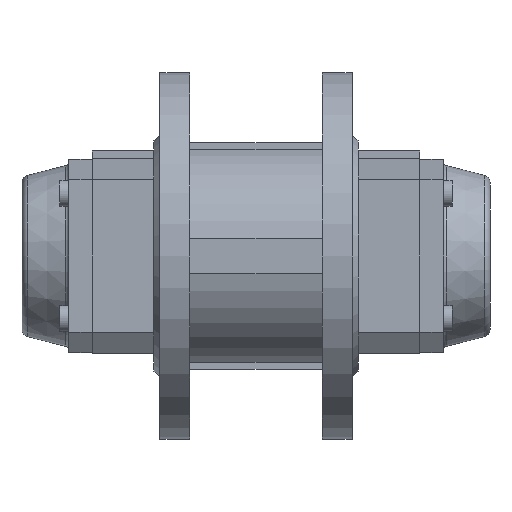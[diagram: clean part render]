
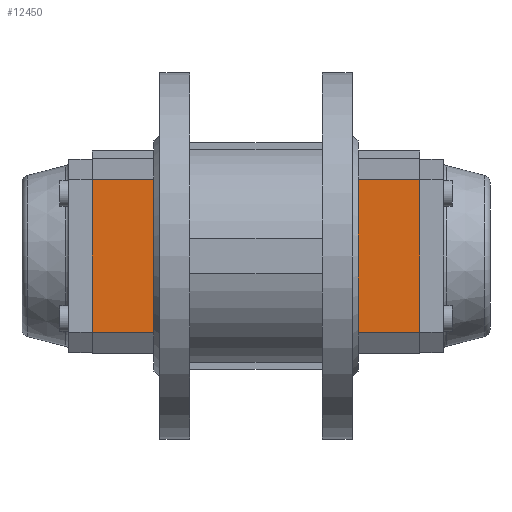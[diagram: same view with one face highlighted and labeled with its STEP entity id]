
A CAD part, front view. The second image highlights one B-rep face of the part: STEP entity #12450.
In plain terms, the highlighted planar face has unit normal (0, -1, 0).
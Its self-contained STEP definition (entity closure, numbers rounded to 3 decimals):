
#173 = VERTEX_POINT ( 'NONE', #10835 ) ;
#187 = EDGE_LOOP ( 'NONE', ( #8606, #8605 ) ) ;
#191 = EDGE_LOOP ( 'NONE', ( #8596, #8595, #8594, #8593 ) ) ;
#192 = EDGE_LOOP ( 'NONE', ( #8602, #8601 ) ) ;
#193 = EDGE_LOOP ( 'NONE', ( #8600, #8599 ) ) ;
#194 = EDGE_LOOP ( 'NONE', ( #8598, #8597 ) ) ;
#195 = EDGE_LOOP ( 'NONE', ( #8604, #8603 ) ) ;
#888 = AXIS2_PLACEMENT_3D ( 'NONE', #7692, #7693, #7694 ) ;
#1657 = CIRCLE ( 'NONE', #1659, 27.5 ) ;
#1659 = AXIS2_PLACEMENT_3D ( 'NONE', #4380, #4381, #4382 ) ;
#1712 = CIRCLE ( 'NONE', #1716, 3.4 ) ;
#1716 = AXIS2_PLACEMENT_3D ( 'NONE', #4480, #4481, #4482 ) ;
#1720 = CIRCLE ( 'NONE', #1724, 3.4 ) ;
#1724 = AXIS2_PLACEMENT_3D ( 'NONE', #4498, #4499, #4500 ) ;
#1728 = CIRCLE ( 'NONE', #1732, 3.4 ) ;
#1732 = AXIS2_PLACEMENT_3D ( 'NONE', #4515, #4516, #4517 ) ;
#1741 = CIRCLE ( 'NONE', #1744, 3.4 ) ;
#1744 = AXIS2_PLACEMENT_3D ( 'NONE', #4544, #4545, #4546 ) ;
#3263 = CARTESIAN_POINT ( 'NONE',  ( -24.749, -55., 28.149 ) ) ;
#3277 = CARTESIAN_POINT ( 'NONE',  ( -24.749, -55., -28.149 ) ) ;
#3282 = CARTESIAN_POINT ( 'NONE',  ( -24.749, -55., -21.349 ) ) ;
#3317 = CARTESIAN_POINT ( 'NONE',  ( 24.749, -55., -28.149 ) ) ;
#3319 = CARTESIAN_POINT ( 'NONE',  ( 24.749, -55., -21.349 ) ) ;
#3326 = CARTESIAN_POINT ( 'NONE',  ( 24.749, -55., 21.349 ) ) ;
#3330 = CARTESIAN_POINT ( 'NONE',  ( 24.749, -55., 28.149 ) ) ;
#3581 = CARTESIAN_POINT ( 'NONE',  ( 38.5, -55., 82.5 ) ) ;
#3600 = CARTESIAN_POINT ( 'NONE',  ( -38.5, -55., 82.5 ) ) ;
#3601 = CARTESIAN_POINT ( 'NONE',  ( -38.5, -55., -82.5 ) ) ;
#3606 = CARTESIAN_POINT ( 'NONE',  ( 38.5, -55., -82.5 ) ) ;
#3703 = CARTESIAN_POINT ( 'NONE',  ( 0., -55., 27.5 ) ) ;
#3706 = CARTESIAN_POINT ( 'NONE',  ( 0., -55., -27.5 ) ) ;
#4380 = CARTESIAN_POINT ( 'NONE',  ( 0., -55., 0. ) ) ;
#4381 = DIRECTION ( 'NONE',  ( 0., -1., 0. ) ) ;
#4382 = DIRECTION ( 'NONE',  ( 0., 0., -1. ) ) ;
#4480 = CARTESIAN_POINT ( 'NONE',  ( 24.749, -55., 24.749 ) ) ;
#4481 = DIRECTION ( 'NONE',  ( 0., -1., 0. ) ) ;
#4482 = DIRECTION ( 'NONE',  ( 0., 0., -1. ) ) ;
#4498 = CARTESIAN_POINT ( 'NONE',  ( 24.749, -55., -24.749 ) ) ;
#4499 = DIRECTION ( 'NONE',  ( 0., -1., 0. ) ) ;
#4500 = DIRECTION ( 'NONE',  ( 0., 0., -1. ) ) ;
#4515 = CARTESIAN_POINT ( 'NONE',  ( -24.749, -55., -24.749 ) ) ;
#4516 = DIRECTION ( 'NONE',  ( 0., -1., 0. ) ) ;
#4517 = DIRECTION ( 'NONE',  ( 0., 0., -1. ) ) ;
#4544 = CARTESIAN_POINT ( 'NONE',  ( -24.749, -55., 24.749 ) ) ;
#4545 = DIRECTION ( 'NONE',  ( 0., -1., 0. ) ) ;
#4546 = DIRECTION ( 'NONE',  ( 0., 0., -1. ) ) ;
#4760 = VERTEX_POINT ( 'NONE', #3263 ) ;
#4774 = VERTEX_POINT ( 'NONE', #3277 ) ;
#4779 = VERTEX_POINT ( 'NONE', #3282 ) ;
#4814 = VERTEX_POINT ( 'NONE', #3317 ) ;
#4816 = VERTEX_POINT ( 'NONE', #3319 ) ;
#4823 = VERTEX_POINT ( 'NONE', #3326 ) ;
#4827 = VERTEX_POINT ( 'NONE', #3330 ) ;
#5322 = VERTEX_POINT ( 'NONE', #3581 ) ;
#5341 = VERTEX_POINT ( 'NONE', #3600 ) ;
#5342 = VERTEX_POINT ( 'NONE', #3601 ) ;
#5347 = VERTEX_POINT ( 'NONE', #3606 ) ;
#7169 = LINE ( 'NONE', #7176, #11321 ) ;
#7176 = CARTESIAN_POINT ( 'NONE',  ( -38.5, -55., -82.5 ) ) ;
#7178 = DIRECTION ( 'NONE',  ( 0., 0., 1. ) ) ;
#7201 = CARTESIAN_POINT ( 'NONE',  ( -24.749, -55., -24.749 ) ) ;
#7202 = DIRECTION ( 'NONE',  ( 0., -1., 0. ) ) ;
#7203 = DIRECTION ( 'NONE',  ( 0., 0., -1. ) ) ;
#7205 = CARTESIAN_POINT ( 'NONE',  ( -24.749, -55., 24.749 ) ) ;
#7206 = DIRECTION ( 'NONE',  ( 0., -1., 0. ) ) ;
#7207 = DIRECTION ( 'NONE',  ( 0., 0., -1. ) ) ;
#7213 = CARTESIAN_POINT ( 'NONE',  ( 0., -55., 0. ) ) ;
#7214 = DIRECTION ( 'NONE',  ( 0., -1., 0. ) ) ;
#7215 = DIRECTION ( 'NONE',  ( 0., 0., -1. ) ) ;
#7222 = CARTESIAN_POINT ( 'NONE',  ( 24.749, -55., -24.749 ) ) ;
#7223 = DIRECTION ( 'NONE',  ( 0., -1., 0. ) ) ;
#7224 = DIRECTION ( 'NONE',  ( 0., 0., -1. ) ) ;
#7235 = LINE ( 'NONE', #7236, #11300 ) ;
#7236 = CARTESIAN_POINT ( 'NONE',  ( 38.5, -55., -82.5 ) ) ;
#7237 = DIRECTION ( 'NONE',  ( 0., 0., 1. ) ) ;
#7240 = CARTESIAN_POINT ( 'NONE',  ( 24.749, -55., 24.749 ) ) ;
#7241 = DIRECTION ( 'NONE',  ( 0., -1., 0. ) ) ;
#7242 = DIRECTION ( 'NONE',  ( 0., 0., -1. ) ) ;
#7411 = LINE ( 'NONE', #7412, #11202 ) ;
#7412 = CARTESIAN_POINT ( 'NONE',  ( -38.5, -55., 82.5 ) ) ;
#7413 = DIRECTION ( 'NONE',  ( 1., 0., 0. ) ) ;
#7484 = LINE ( 'NONE', #7485, #11171 ) ;
#7485 = CARTESIAN_POINT ( 'NONE',  ( -38.5, -55., -82.5 ) ) ;
#7486 = DIRECTION ( 'NONE',  ( 1., 0., 0. ) ) ;
#7680 = FACE_BOUND ( 'NONE', #195, .T. ) ;
#7685 = FACE_BOUND ( 'NONE', #194, .T. ) ;
#7686 = FACE_BOUND ( 'NONE', #187, .T. ) ;
#7687 = FACE_OUTER_BOUND ( 'NONE', #191, .T. ) ;
#7688 = PLANE ( 'NONE',  #888 ) ;
#7689 = FACE_BOUND ( 'NONE', #192, .T. ) ;
#7691 = FACE_BOUND ( 'NONE', #193, .T. ) ;
#7692 = CARTESIAN_POINT ( 'NONE',  ( -38.5, -55., -82.5 ) ) ;
#7693 = DIRECTION ( 'NONE',  ( 0., -1., 0. ) ) ;
#7694 = DIRECTION ( 'NONE',  ( 0., 0., -1. ) ) ;
#8593 = ORIENTED_EDGE ( 'NONE', *, *, #12404, .T. ) ;
#8594 = ORIENTED_EDGE ( 'NONE', *, *, #12335, .F. ) ;
#8595 = ORIENTED_EDGE ( 'NONE', *, *, #12385, .F. ) ;
#8596 = ORIENTED_EDGE ( 'NONE', *, *, #12348, .T. ) ;
#8597 = ORIENTED_EDGE ( 'NONE', *, *, #12819, .F. ) ;
#8598 = ORIENTED_EDGE ( 'NONE', *, *, #12342, .F. ) ;
#8599 = ORIENTED_EDGE ( 'NONE', *, *, #12873, .F. ) ;
#8600 = ORIENTED_EDGE ( 'NONE', *, *, #12340, .F. ) ;
#8601 = ORIENTED_EDGE ( 'NONE', *, *, #12864, .F. ) ;
#8602 = ORIENTED_EDGE ( 'NONE', *, *, #12339, .F. ) ;
#8603 = ORIENTED_EDGE ( 'NONE', *, *, #12858, .F. ) ;
#8604 = ORIENTED_EDGE ( 'NONE', *, *, #12344, .F. ) ;
#8605 = ORIENTED_EDGE ( 'NONE', *, *, #12852, .F. ) ;
#8606 = ORIENTED_EDGE ( 'NONE', *, *, #12349, .F. ) ;
#8638 = VERTEX_POINT ( 'NONE', #3706 ) ;
#8639 = VERTEX_POINT ( 'NONE', #3703 ) ;
#10835 = CARTESIAN_POINT ( 'NONE',  ( -24.749, -55., 21.349 ) ) ;
#11171 = VECTOR ( 'NONE', #7486, 1000. ) ;
#11202 = VECTOR ( 'NONE', #7413, 1000. ) ;
#11291 = AXIS2_PLACEMENT_3D ( 'NONE', #7240, #7241, #7242 ) ;
#11295 = CIRCLE ( 'NONE', #11291, 3.4 ) ;
#11300 = VECTOR ( 'NONE', #7237, 1000. ) ;
#11302 = AXIS2_PLACEMENT_3D ( 'NONE', #7222, #7223, #7224 ) ;
#11303 = CIRCLE ( 'NONE', #11302, 3.4 ) ;
#11304 = AXIS2_PLACEMENT_3D ( 'NONE', #7205, #7206, #7207 ) ;
#11305 = AXIS2_PLACEMENT_3D ( 'NONE', #7213, #7214, #7215 ) ;
#11306 = AXIS2_PLACEMENT_3D ( 'NONE', #7201, #7202, #7203 ) ;
#11309 = CIRCLE ( 'NONE', #11304, 3.4 ) ;
#11310 = CIRCLE ( 'NONE', #11305, 27.5 ) ;
#11311 = CIRCLE ( 'NONE', #11306, 3.4 ) ;
#11321 = VECTOR ( 'NONE', #7178, 1000. ) ;
#12335 = EDGE_CURVE ( 'NONE', #5342, #5341, #7169, .T. ) ;
#12339 = EDGE_CURVE ( 'NONE', #4774, #4779, #11311, .T. ) ;
#12340 = EDGE_CURVE ( 'NONE', #173, #4760, #11309, .T. ) ;
#12342 = EDGE_CURVE ( 'NONE', #8638, #8639, #11310, .T. ) ;
#12344 = EDGE_CURVE ( 'NONE', #4814, #4816, #11303, .T. ) ;
#12348 = EDGE_CURVE ( 'NONE', #5347, #5322, #7235, .T. ) ;
#12349 = EDGE_CURVE ( 'NONE', #4823, #4827, #11295, .T. ) ;
#12385 = EDGE_CURVE ( 'NONE', #5341, #5322, #7411, .T. ) ;
#12404 = EDGE_CURVE ( 'NONE', #5342, #5347, #7484, .T. ) ;
#12450 = ADVANCED_FACE ( 'NONE', ( #7686, #7680, #7689, #7691, #7685, #7687 ), #7688, .T. ) ;
#12819 = EDGE_CURVE ( 'NONE', #8639, #8638, #1657, .T. ) ;
#12852 = EDGE_CURVE ( 'NONE', #4827, #4823, #1712, .T. ) ;
#12858 = EDGE_CURVE ( 'NONE', #4816, #4814, #1720, .T. ) ;
#12864 = EDGE_CURVE ( 'NONE', #4779, #4774, #1728, .T. ) ;
#12873 = EDGE_CURVE ( 'NONE', #4760, #173, #1741, .T. ) ;
